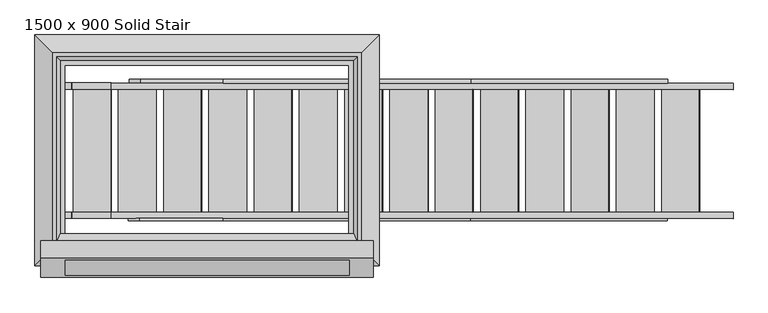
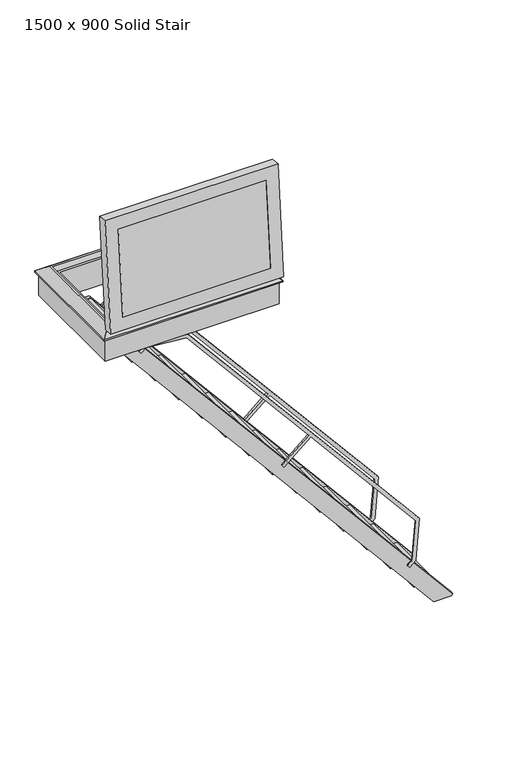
"""IFC4 building model written with IfcOpenShell, lengths in millimetres: proxy geometry, 4_Topaccess_dakluik_1500x900_Staka : 1500 x 900 Solid Stair."""

from ifc_helpers import new_model, si_unit, point, frame, frame_2d, origin, place, context, project, spatial, polyline, circle_curve, trimmed, segment, composite_curve, outline, extrude, faceted_brep, source, transform, mapped, element, save


def proxy_1500_x_900_solid_stair_c85e049a(model_context):
    return source(origin(), model_context, "Body", "SolidModel", [
        extrude(outline(polyline([(-3725.9037973, 1728.6273524), (-3725.9037973, 1528.6273524), (-3745.8276912, 1528.6273524), (-3745.8276912, 1730.3704673), (-3725.9037973, 1728.6273524)])), frame((0.0, -93.1671208, 0.0), z_axis=(0.0, 1.0, 0.0), x_axis=(0.0, 0.0, 1.0)), (0.0, 0.0, 1.0), 650.0),
        extrude(outline(polyline([(-3439.882935, 1488.6273524), (-3439.882935, 1288.6273524), (-3459.806829, 1288.6273524), (-3459.806829, 1490.3704673), (-3439.882935, 1488.6273524)])), frame((0.0, -93.1671208, 0.0), z_axis=(0.0, 1.0, 0.0), x_axis=(0.0, 0.0, 1.0)), (0.0, 0.0, 1.0), 650.0),
        extrude(outline(polyline([(-3153.8620728, 1248.6273524), (-3153.8620728, 1048.6273524), (-3173.7859668, 1048.6273524), (-3173.7859668, 1250.3704673), (-3153.8620728, 1248.6273524)])), frame((0.0, -93.1671208, 0.0), z_axis=(0.0, 1.0, 0.0), x_axis=(0.0, 0.0, 1.0)), (0.0, 0.0, 1.0), 650.0),
        extrude(outline(polyline([(-2867.8412106, 1008.6273524), (-2867.8412106, 808.6273524), (-2887.7651046, 808.6273524), (-2887.7651046, 1010.3704673), (-2867.8412106, 1008.6273524)])), frame((0.0, -93.1671208, 0.0), z_axis=(0.0, 1.0, 0.0), x_axis=(0.0, 0.0, 1.0)), (0.0, 0.0, 1.0), 650.0),
        extrude(outline(polyline([(-2581.8203484, 768.6273524), (-2581.8203484, 568.6273524), (-2601.7442423, 568.6273524), (-2601.7442423, 770.3704673), (-2581.8203484, 768.6273524)])), frame((0.0, -93.1671208, 0.0), z_axis=(0.0, 1.0, 0.0), x_axis=(0.0, 0.0, 1.0)), (0.0, 0.0, 1.0), 650.0),
        extrude(outline(polyline([(-2295.7994862, 528.6273524), (-2295.7994862, 328.6273524), (-2315.7233801, 328.6273524), (-2315.7233801, 530.3704673), (-2295.7994862, 528.6273524)])), frame((0.0, -93.1671208, 0.0), z_axis=(0.0, 1.0, 0.0), x_axis=(0.0, 0.0, 1.0)), (0.0, 0.0, 1.0), 650.0),
        extrude(outline(polyline([(-2009.7786239, 288.6273524), (-2009.7786239, 88.6273524), (-2029.7025179, 88.6273524), (-2029.7025179, 290.3704673), (-2009.7786239, 288.6273524)])), frame((0.0, -93.1671208, 0.0), z_axis=(0.0, 1.0, 0.0), x_axis=(0.0, 0.0, 1.0)), (0.0, 0.0, 1.0), 650.0),
        extrude(outline(polyline([(-1723.7577617, 48.6273524), (-1723.7577617, -151.3726476), (-1743.6816557, -151.3726476), (-1743.6816557, 50.3704673), (-1723.7577617, 48.6273524)])), frame((0.0, -93.1671208, 0.0), z_axis=(0.0, 1.0, 0.0), x_axis=(0.0, 0.0, 1.0)), (0.0, 0.0, 1.0), 650.0),
        extrude(outline(polyline([(-7.6325884, -1391.3726476), (-7.6325884, -1591.3726476), (-27.5564823, -1591.3726476), (-27.5564823, -1389.6295327), (-7.6325884, -1391.3726476)])), frame((0.0, -93.1671208, 0.0), z_axis=(0.0, 1.0, 0.0), x_axis=(0.0, 0.0, 1.0)), (0.0, 0.0, 1.0), 650.0),
        extrude(outline(polyline([(-1437.7368995, -191.3726476), (-1437.7368995, -391.3726476), (-1457.6607934, -391.3726476), (-1457.6607934, -189.6295327), (-1437.7368995, -191.3726476)])), frame((0.0, -93.1671208, 0.0), z_axis=(0.0, 1.0, 0.0), x_axis=(0.0, 0.0, 1.0)), (0.0, 0.0, 1.0), 650.0),
        extrude(outline(polyline([(-1151.7160373, -431.3726476), (-1151.7160373, -631.3726476), (-1171.6399312, -631.3726476), (-1171.6399312, -429.6295327), (-1151.7160373, -431.3726476)])), frame((0.0, -93.1671208, 0.0), z_axis=(0.0, 1.0, 0.0), x_axis=(0.0, 0.0, 1.0)), (0.0, 0.0, 1.0), 650.0),
        extrude(outline(polyline([(-865.695175, -671.3726476), (-865.695175, -871.3726476), (-885.619069, -871.3726476), (-885.619069, -669.6295327), (-865.695175, -671.3726476)])), frame((0.0, -93.1671208, 0.0), z_axis=(0.0, 1.0, 0.0), x_axis=(0.0, 0.0, 1.0)), (0.0, 0.0, 1.0), 650.0),
        extrude(outline(polyline([(-579.6743128, -911.3726476), (-579.6743128, -1111.3726476), (-599.5982068, -1111.3726476), (-599.5982068, -909.6295327), (-579.6743128, -911.3726476)])), frame((0.0, -93.1671208, 0.0), z_axis=(0.0, 1.0, 0.0), x_axis=(0.0, 0.0, 1.0)), (0.0, 0.0, 1.0), 650.0),
        extrude(outline(polyline([(-293.6534506, -1151.3726476), (-293.6534506, -1351.3726476), (-313.5773446, -1351.3726476), (-313.5773446, -1149.6295327), (-293.6534506, -1151.3726476)])), frame((0.0, -93.1671208, 0.0), z_axis=(0.0, 1.0, 0.0), x_axis=(0.0, 0.0, 1.0)), (0.0, 0.0, 1.0), 650.0),
        extrude(outline(polyline([(-141.0692891, -1236.6086774), (-192.4922979, -1297.8922329), (-217.7717645, -1276.6802418), (-175.1350501, -1225.8677842), (-211.100905, -814.7761825), (-1694.5137463, 429.9549856), (-1924.7133341, 155.6137997), (-1949.9928007, 176.8257909), (-1719.7932129, 451.1669767), (-1763.360471, 487.7242469), (-2997.7115931, 1523.4678182), (-3408.8031949, 1487.5019634), (-3451.4399092, 1436.6895059), (-3476.7193759, 1457.901497), (-3425.2963671, 1519.1850524), (-2986.9706999, 1557.5335792), (-1742.1484799, 513.0037135), (-179.4178159, -798.2830103), (-141.0692891, -1236.6086774)])), frame((0.0, -139.5276803, 0.0), z_axis=(0.0, 1.0, 0.0), x_axis=(0.0, 0.0, 1.0)), (0.0, 0.0, 1.0), 12.3605595),
        extrude(outline(polyline([(-137.855351, -1232.7784552), (-189.2783598, -1294.0620107), (-214.5578264, -1272.8500195), (-171.9211121, -1222.037562), (-207.8869669, -810.9459603), (-1691.2998082, 433.7852078), (-1921.4993961, 159.444022), (-1946.7788627, 180.6560131), (-1716.5792749, 454.9971989), (-1760.1465329, 491.5544691), (-2994.4976551, 1527.2980404), (-3405.5892568, 1491.3321856), (-3448.2259712, 1440.5197281), (-3473.5054378, 1461.7317192), (-3422.082429, 1523.0152746), (-2983.7567619, 1561.3638014), (-1738.9345418, 516.8339357), (-176.2038779, -794.4527881), (-137.855351, -1232.7784552)])), frame((0.0, 590.8328792, 0.0), z_axis=(0.0, 1.0, 0.0), x_axis=(0.0, 0.0, 1.0)), (0.0, 0.0, 1.0), 19.5664198),
        extrude(outline(polyline([(-35.0743917, -1568.3462405), (-0.0119954, -1597.7670843), (0.0, -1631.2697623), (-35.0518623, -1631.2697623), (-35.0743917, -1568.3462405)])), frame((0.0, 556.8328792, 0.0), z_axis=(0.0, 1.0, 0.0), x_axis=(0.0, 0.0, 1.0)), (0.0, 0.0, 1.0), 34.0),
        extrude(outline(polyline([(-0.0119954, -1597.7670843), (0.0, -1631.2697623), (-35.0518623, -1631.2697623), (-35.0743917, -1568.3462405), (-0.0119954, -1597.7670843)])), frame((0.0, -127.1671208, 0.0), z_axis=(0.0, 1.0, 0.0), x_axis=(0.0, 0.0, 1.0)), (0.0, 0.0, 1.0), 34.0),
        extrude(outline(polyline([(-3928.3534543, 1907.3679513), (-0.0119954, -1388.901918), (-0.0119954, -1597.7670843), (-3941.8407861, 1709.8200001), (-3941.8407861, 1891.2943753), (-3928.3534543, 1907.3679513)])), frame((0.0, -127.1671208, 0.0), z_axis=(0.0, 1.0, 0.0), x_axis=(0.0, 0.0, 1.0)), (0.0, 0.0, 1.0), 34.0),
        extrude(outline(polyline([(-3928.3534543, 1907.3679513), (-0.0119954, -1388.901918), (-0.0119954, -1597.7670843), (-3941.8407861, 1709.8200001), (-3941.8407861, 1891.2943753), (-3928.3534543, 1907.3679513)])), frame((0.0, 556.8328792, 0.0), z_axis=(0.0, 1.0, 0.0), x_axis=(0.0, 0.0, 1.0)), (0.0, 0.0, 1.0), 34.0),
        extrude(outline(composite_curve([segment(polyline([(-334.1775112, 328.3506402), (-301.289293, 316.2108892), (-348.1414216, 278.7291863), (-358.0740728, 291.1450004)]), True, "CONTINUOUS"), segment(trimmed(circle_curve(frame_2d((-352.0609228, 295.2162043)), 7.2617267), [point((-358.0740728, 291.1450004))], [point((-359.2338356, 296.3484571))], False, "CARTESIAN"), True, "CONTINUOUS"), segment(polyline([(-359.2338356, 296.3484571), (-352.0421212, 341.9085495)]), True, "CONTINUOUS"), segment(trimmed(circle_curve(frame_2d((-346.6570009, 339.3403204)), 5.9661815), [point((-352.0421212, 341.9085495))], [point((-340.7117924, 338.840502))], False, "CARTESIAN"), True, "CONTINUOUS"), segment(trimmed(circle_curve(frame_2d((-330.6879097, 337.80444)), 10.0772838), [point((-340.7117924, 338.840502))], [point((-334.1775112, 328.3506402))], True, "CARTESIAN"), True, "CONTINUOUS")], self_intersect=False)), frame((-1631.2697623, 0.0, 0.0), z_axis=(1.0, 0.0, 0.0), x_axis=(0.0, 1.0, 0.0)), (0.0, 0.0, 1.0), 31.5237414),
        extrude(outline(composite_curve([segment(polyline([(-334.1775112, 328.3506402), (-301.289293, 316.2108892), (-348.1414216, 278.7291863), (-358.0740728, 291.1450004)]), True, "CONTINUOUS"), segment(trimmed(circle_curve(frame_2d((-352.0609228, 295.2162043)), 7.2617267), [point((-358.0740728, 291.1450004))], [point((-359.2338356, 296.3484571))], False, "CARTESIAN"), True, "CONTINUOUS"), segment(polyline([(-359.2338356, 296.3484571), (-352.0421212, 341.9085495)]), True, "CONTINUOUS"), segment(trimmed(circle_curve(frame_2d((-346.6570009, 339.3403204)), 5.9661815), [point((-352.0421212, 341.9085495))], [point((-340.7117924, 338.840502))], False, "CARTESIAN"), True, "CONTINUOUS"), segment(trimmed(circle_curve(frame_2d((-330.6879097, 337.80444)), 10.0772838), [point((-340.7117924, 338.840502))], [point((-334.1775112, 328.3506402))], True, "CARTESIAN"), True, "CONTINUOUS")], self_intersect=False)), frame((-164.9931051, 0.0, 0.0), z_axis=(1.0, 0.0, 0.0), x_axis=(0.0, 1.0, 0.0)), (0.0, 0.0, 1.0), 33.7233427),
        faceted_brep([(-61.2697623, 753.4470955, 328.0), (30.7302377, 845.4470955, 254.4), (-1793.2697623, 845.4470955, 254.4), (-1701.2697623, 753.4470955, 328.0), (-105.2697623, 709.4470955, 282.0), (-85.7439208, 728.9729371, 328.0), (-1676.7956039, 728.9729371, 328.0), (-1657.2697623, 709.4470955, 282.0), (-131.2697623, 683.4470955, 0.0), (-131.2697623, 683.4470955, 282.0), (-1631.2697623, 683.4470955, 282.0), (-1631.2697623, 683.4470955, 0.0), (4.7302377, 819.4470955, 240.0), (4.7302377, 819.4470955, 0.0), (-1767.2697623, 819.4470955, 0.0), (-1767.2697623, 819.4470955, 240.0), (30.7302377, 845.4470955, 240.0), (-1793.2697623, 845.4470955, 240.0), (-1793.2697623, -378.5529045, 254.4), (-1701.2697623, -286.5529045, 328.0), (-1676.7956039, -262.078746, 328.0), (-1657.2697623, -242.5529045, 282.0), (-1631.2697623, -216.5529045, 282.0), (-1631.2697623, -216.5529045, 0.0), (-1767.2697623, -352.5529045, 0.0), (-1767.2697623, -352.5529045, 240.0), (-1793.2697623, -378.5529045, 240.0), (30.7302377, -378.5529045, 254.4), (-61.2697623, -286.5529045, 328.0), (-85.7439208, -262.078746, 328.0), (-105.2697623, -242.5529045, 282.0), (-131.2697623, -216.5529045, 282.0), (-131.2697623, -216.5529045, 0.0), (4.7302377, -352.5529045, 0.0), (4.7302377, -352.5529045, 240.0), (30.7302377, -378.5529045, 240.0)], [[[0, 1, 2, 3]], [[4, 5, 6, 7]], [[8, 9, 10, 11]], [[12, 13, 14, 15]], [[1, 16, 17, 2]], [[3, 2, 18, 19]], [[7, 6, 20, 21]], [[11, 10, 22, 23]], [[15, 14, 24, 25]], [[2, 17, 26, 18]], [[19, 18, 27, 28]], [[21, 20, 29, 30]], [[23, 22, 31, 32]], [[25, 24, 33, 34]], [[18, 26, 35, 27]], [[28, 27, 1, 0]], [[3, 19, 28, 0], [5, 29, 20, 6]], [[30, 29, 5, 4]], [[7, 21, 30, 4], [9, 31, 22, 10]], [[32, 31, 9, 8]], [[13, 33, 24, 14], [11, 23, 32, 8]], [[34, 33, 13, 12]], [[16, 35, 26, 17], [15, 25, 34, 12]], [[27, 35, 16, 1]]]),
        extrude(outline(polyline([(0.0, -1505.0), (0.0, 0.0), (139.4, 0.0), (139.4, -1505.0), (0.0, -1505.0)])), frame((-1633.2725908, -428.8183427, 470.0146001), z_axis=(0.0, 0.08715574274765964, 0.9961946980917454), x_axis=(0.0, 0.9961946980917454, -0.08715574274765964)), (0.0, 0.0, 1.0), 904.0),
        faceted_brep([(-128.2725908, -211.1600104, 1358.4250967), (-128.2725908, -350.0295513, 1370.5746072), (-1633.2725908, -350.0295513, 1370.5746072), (-1633.2725908, -211.1600104, 1358.4250967), (-85.2725908, -253.6357474, 1405.3054951), (-102.8725908, -208.9462545, 1383.728442), (-1658.6725908, -208.9462545, 1383.728442), (-1676.2725908, -253.6357474, 1405.3054951), (0.7274092, -338.7864605, 1499.0837233), (0.7274092, -246.1403535, 1490.9782392), (-1762.2725908, -246.1403535, 1490.9782392), (-1762.2725908, -338.7864605, 1499.0837233), (-1633.2725908, -428.8183427, 470.0146001), (-1633.2725908, -289.9488018, 457.8650896), (-1658.6725908, -292.1625577, 432.5617443), (-1676.2725908, -339.9199327, 419.072744), (-1762.2725908, -347.4153266, 333.4), (-1762.2725908, -440.0614335, 341.5054841), (-128.2725908, -428.8183427, 470.0146001), (-128.2725908, -289.9488018, 457.8650896), (-102.8725908, -292.1625577, 432.5617443), (-85.2725908, -339.9199327, 419.072744), (0.7274092, -347.4153266, 333.4), (0.7274092, -440.0614335, 341.5054841)], [[[0, 1, 2, 3]], [[4, 5, 6, 7]], [[8, 9, 10, 11]], [[3, 2, 12, 13]], [[7, 6, 14, 15]], [[11, 10, 16, 17]], [[13, 12, 18, 19]], [[15, 14, 20, 21]], [[17, 16, 22, 23]], [[19, 18, 1, 0]], [[5, 20, 14, 6], [3, 13, 19, 0]], [[21, 20, 5, 4]], [[9, 22, 16, 10], [7, 15, 21, 4]], [[23, 22, 9, 8]], [[11, 17, 23, 8], [1, 18, 12, 2]]]),
    ])


if __name__ == "__main__":
    model = new_model("IFC4")
    model_context = context("Model", 3, world=origin())
    ifc_project = project(units=[si_unit("LENGTHUNIT", "METRE", prefix="MILLI")], contexts=[model_context])
    site = spatial("IfcSite", under=ifc_project)
    building = spatial("IfcBuilding", under=site)
    placement = place(None, origin())
    proxy_1500_x_900_solid_stair_shape = proxy_1500_x_900_solid_stair_c85e049a(model_context)
    element("IfcBuildingElementProxy", 1, Name="4_Topaccess_dakluik_1500x900_Staka : 1500 x 900 Solid Stair", ObjectType="4_Topaccess_dakluik_1500x900_Staka : 1500 x 900 Solid Stair", at=placement, inside=building, context=model_context, shape_type="MappedRepresentation", body=[
        mapped(proxy_1500_x_900_solid_stair_shape, transform((0.0, 0.0, 0.0), x_axis=(1.0, 0.0, 0.0), y_axis=(0.0, 1.0, 0.0), z_axis=(0.0, 0.0, 1.0))),
    ])
    save(model, "model.ifc")
